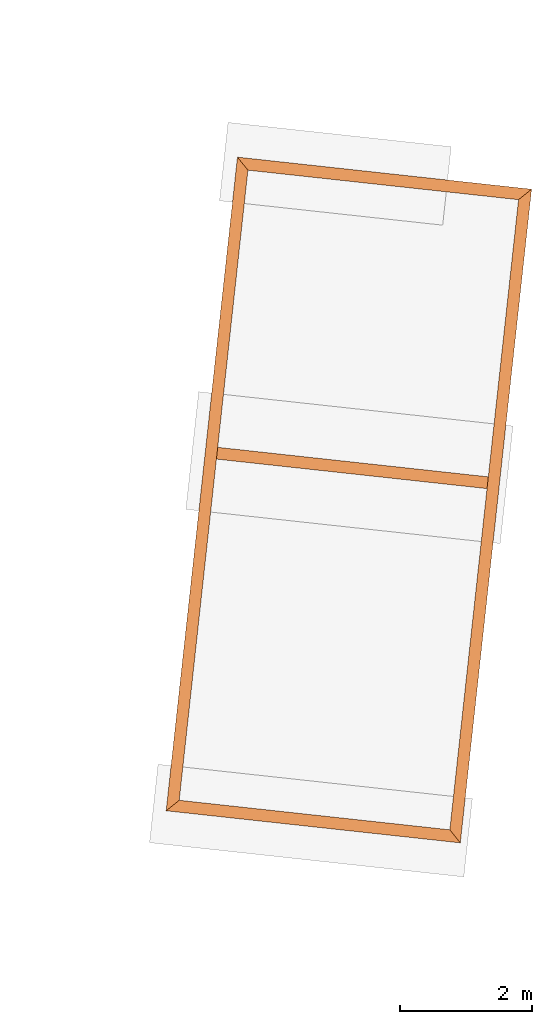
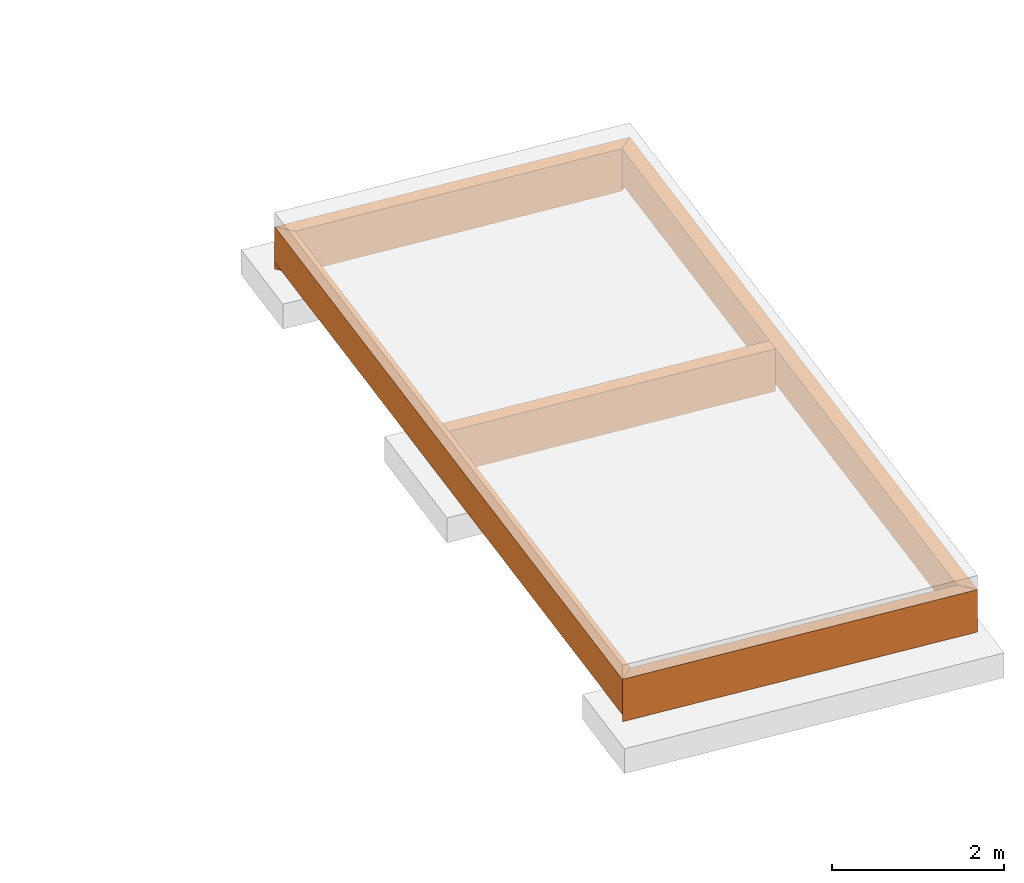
# One storey, part 2 of 2: 5 proxies.
"""IFC2X3 building model written with IfcOpenShell, lengths in metres."""

from ifc_helpers import new_model, entity, si_unit, converted_unit, derived_unit, money_unit, direction, frame, origin_with_axes, place, context, subcontext, project, spatial, polyline, outline, extrude, material, type_object, element, save


model = new_model("IFC2X3")

# Units and contexts
model_context = context("Model", 3, precision=1e-05, world=origin_with_axes(), true_north=direction((0.0, 1.0)))
body_context = subcontext(model_context, "Body", "Model", "MODEL_VIEW")
ifc_project = project(units=[si_unit("LENGTHUNIT", "METRE"), si_unit("AREAUNIT", "SQUARE_METRE"), si_unit("VOLUMEUNIT", "CUBIC_METRE"), converted_unit("PLANEANGLEUNIT", "DEGREE", entity("IfcPlaneAngleMeasure", 0.0174532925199), si_unit("PLANEANGLEUNIT", "RADIAN"), dimensions=[0, 0, 0, 0, 0, 0, 0]), money_unit("CHF"), converted_unit("TIMEUNIT", "Year", entity("IfcTimeMeasure", 31556926.0), si_unit("TIMEUNIT", "SECOND"), dimensions=[0, 0, 1, 0, 0, 0, 0]), si_unit("MASSUNIT", "GRAM", prefix="KILO"), si_unit("THERMODYNAMICTEMPERATUREUNIT", "DEGREE_CELSIUS"), si_unit("LUMINOUSINTENSITYUNIT", "LUMEN"), si_unit("ENERGYUNIT", "JOULE", prefix="MEGA"), derived_unit("THERMALCONDUCTANCEUNIT", [(si_unit("POWERUNIT", "WATT"), 1), (si_unit("LENGTHUNIT", "METRE"), -1), (si_unit("THERMODYNAMICTEMPERATUREUNIT", "KELVIN"), -1)]), derived_unit("SPECIFICHEATCAPACITYUNIT", [(si_unit("ENERGYUNIT", "JOULE"), 1), (si_unit("MASSUNIT", "GRAM", prefix="KILO"), -1), (si_unit("THERMODYNAMICTEMPERATUREUNIT", "KELVIN"), -1)]), derived_unit("MASSDENSITYUNIT", [(si_unit("MASSUNIT", "GRAM", prefix="KILO"), 1), (si_unit("VOLUMEUNIT", "CUBIC_METRE"), -1)])], contexts=[model_context])

# Site, building, storey
site_placement = place(None, frame((0.0, 0.0, 0.0), z_axis=(0.0, 0.0, 1.0), x_axis=(-0.177771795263, -0.984071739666, 0.0)))
site = spatial("IfcSite", under=ifc_project, at=site_placement, Name="Site", CompositionType="ELEMENT")
building_placement = place(site_placement, origin_with_axes())
building = spatial("IfcBuilding", under=site, at=building_placement, Name="Bâtiment", CompositionType="ELEMENT")
storey_placement = place(building_placement, frame((0.0, 0.0, -1.1), z_axis=(0.0, 0.0, 1.0), x_axis=(1.0, 0.0, 0.0)))
storey = spatial("IfcBuildingStorey", under=building, at=storey_placement, Name="Fondations", CompositionType="ELEMENT", Elevation=-1.1)

# Proxies
ifc_material = material(Name="_BA banché")
building_element_proxy_type = type_object("IfcBuildingElementProxyType", Name="_BA banché 180", PredefinedType="NOTDEFINED")
proxy_1_placement = place(storey_placement, frame((136.411685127, -120.03420689, 0.2), z_axis=(0.0, 0.0, 1.0), x_axis=(0.0700487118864, -0.997543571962, 0.0)))
element("IfcBuildingElementProxy", 1, at=proxy_1_placement, inside=storey, type_object=building_element_proxy_type, material=ifc_material, Name="M-fondat_BlocSanit", context=body_context, shape_type="SweptSolid", body=[
    extrude(outline(polyline([(0.179999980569, -0.18), (4.31999969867, -0.18), (4.31999969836, 0.0), (0.179999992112, 0.0), (0.179999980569, -0.18)])), origin_with_axes(), (0.0, 0.0, 1.0), 0.6),
])
proxy_2_placement = place(storey_placement, frame((132.138204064, -124.845376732, 0.3), z_axis=(0.0, 0.0, 1.0), x_axis=(0.997543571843, 0.0700487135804, 0.0)))
element("IfcBuildingElementProxy", 2, at=proxy_2_placement, inside=storey, type_object=building_element_proxy_type, material=ifc_material, Name="M-fondat_BlocSanit", context=body_context, shape_type="SweptSolid", body=[
    extrude(outline(polyline([(1.4639431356e-07, 0.0), (10.0000001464, 0.0), (9.8200001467, 0.18), (0.1800001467, 0.18), (1.4639431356e-07, 0.0)])), origin_with_axes(), (0.0, 0.0, 1.0), 0.5),
])
proxy_3_placement = place(storey_placement, frame((131.822985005, -120.356430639, 0.3), z_axis=(0.0, 0.0, 1.0), x_axis=(0.997543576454, 0.0700486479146, 0.0)))
element("IfcBuildingElementProxy", 3, at=proxy_3_placement, inside=storey, type_object=building_element_proxy_type, material=ifc_material, Name="M-fondat_BlocSanit", context=body_context, shape_type="SweptSolid", body=[
    extrude(outline(polyline([(0.180000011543, -0.18), (9.82000001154, -0.18), (10.0, 0.0), (0.0, 0.0), (0.180000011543, -0.18)])), origin_with_axes(), (0.0, 0.0, 1.0), 0.5),
])
proxy_4_placement = place(storey_placement, frame((132.138204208, -124.845376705, 0.2), z_axis=(0.0, 0.0, 1.0), x_axis=(-0.0700487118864, 0.997543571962, 0.0)))
element("IfcBuildingElementProxy", 4, at=proxy_4_placement, inside=storey, type_object=building_element_proxy_type, material=ifc_material, Name="M-fondat_BlocSanit", context=body_context, shape_type="SweptSolid", body=[
    extrude(outline(polyline([(0.179999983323, -0.18), (4.31999998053, -0.18), (4.49999999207, 0.0), (-1.69825682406e-08, 0.0), (0.179999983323, -0.18)])), origin_with_axes(), (0.0, 0.0, 1.0), 0.6),
])
proxy_5_placement = place(storey_placement, frame((141.79842077, -119.65594416, 0.2), z_axis=(0.0, 0.0, 1.0), x_axis=(0.0700487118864, -0.997543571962, 0.0)))
element("IfcBuildingElementProxy", 5, at=proxy_5_placement, inside=storey, type_object=building_element_proxy_type, material=ifc_material, Name="M-fondat_BlocSanit", context=body_context, shape_type="SweptSolid", body=[
    extrude(outline(polyline([(0.179999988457, -0.18), (4.31999935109, -0.18), (4.49999935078, 0.0), (0.0, 0.0), (0.179999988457, -0.18)])), origin_with_axes(), (0.0, 0.0, 1.0), 0.6),
])

save(model, "model.ifc")
